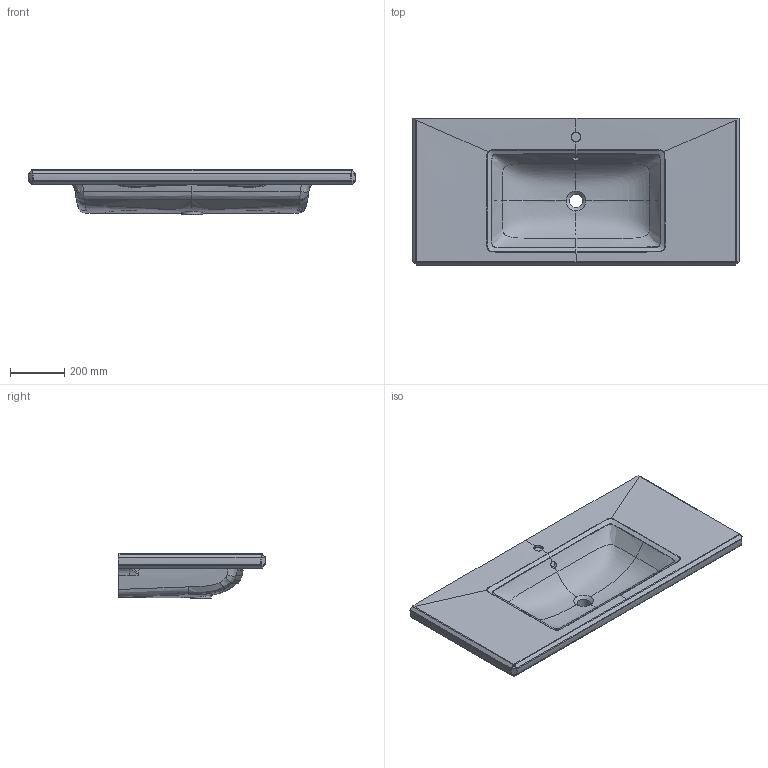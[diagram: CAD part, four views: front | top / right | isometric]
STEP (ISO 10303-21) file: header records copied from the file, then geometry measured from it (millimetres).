
FILE_DESCRIPTION(/* description */ (''),/* implementation_level */ '2;1');
FILE_NAME(/* name */ '4A10C5_Antheus_SWT_120.stp',/* time_stamp */ '2018-11-23T08:40:21+01:00',/* author */ (''),/* organization */ (''),/* preprocessor_version */ 'ST-DEVELOPER v16',/* originating_system */ 'SIEMENS PLM Software NX 10.0',/* authorisation */ '');
FILE_SCHEMA (('AUTOMOTIVE_DESIGN { 1 0 10303 214 3 1 1 1 }'));
Products named in the file (1): Sier1974F9F1mty9
Bounding box: 1199.99 x 539.98 x 167.65 mm (x, y, z)
Volume: 51133915.3 mm3; surface area: 1745202.7 mm2
Topology: 1 solids, 1 shells, 202 faces, 520 edges, 298 vertices
Faces by surface type: bspline 114, cylinder 35, sphere 24, plane 19, extrusion 7, cone 2, torus 1
Full cylindrical faces by diameter (mm): 48.552 x1
Entity records: 231555 total; most frequent: CARTESIAN_POINT 227707, ORIENTED_EDGE 984, DIRECTION 526, EDGE_CURVE 492, VERTEX_POINT 296, B_SPLINE_CURVE_WITH_KNOTS 250, AXIS2_PLACEMENT_3D 220, EDGE_LOOP 208
